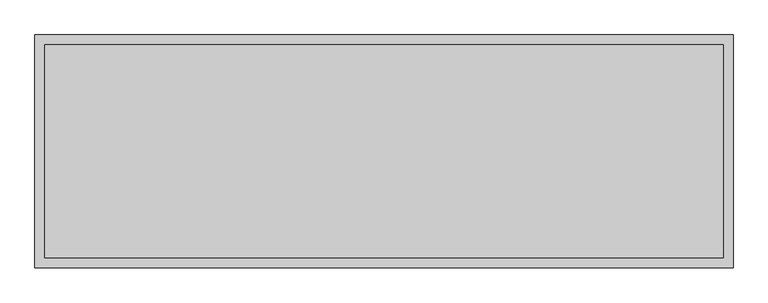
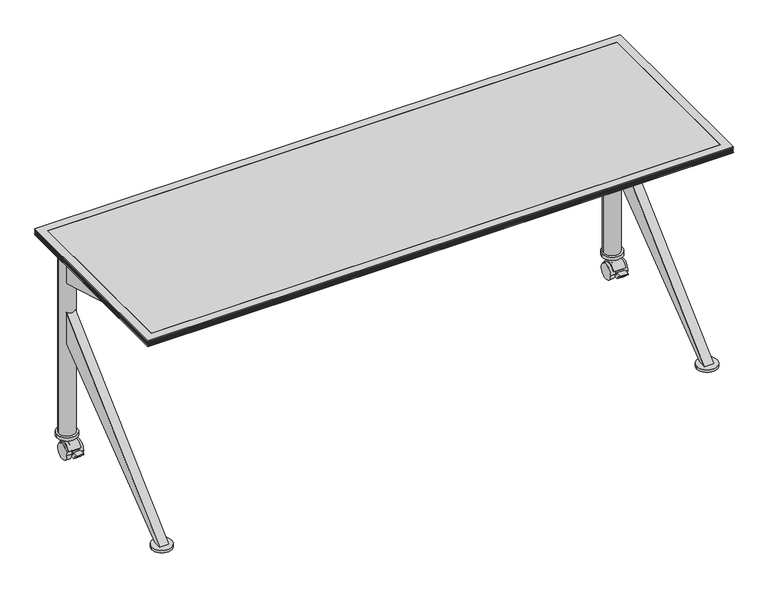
"""IFC4 building model written with IfcOpenShell, lengths in millimetres: furniture geometry, Coalesse_AM_Table_Conference_Ballet_Rectangular_KBase : Non Folding - 72L x 24W."""

from ifc_helpers import new_model, si_unit, point, frame, frame_2d, origin, origin_with_axes, place, context, project, spatial, polyline, circle_curve, trimmed, segment, composite_curve, outline, extrude, faceted_brep, source, transform, mapped, element, save


def furniture_82742941(model_context):
    return source(origin(), model_context, "Body", "SolidModel", [
        extrude(outline(composite_curve([segment(trimmed(circle_curve(frame_2d((-851.8092495, -273.05)), 25.4), [point((-877.2092495, -273.05))], [point((-826.4092495, -273.05))], False, "CARTESIAN"), True, "CONTINUOUS"), segment(trimmed(circle_curve(frame_2d((-851.8092495, -273.05)), 25.4), [point((-826.4092495, -273.05))], [point((-877.2092495, -273.05))], False, "CARTESIAN"), True, "CONTINUOUS")], self_intersect=False)), origin_with_axes(), (0.0, 0.0, 1.0), 4.2936144),
        extrude(outline(composite_curve([segment(trimmed(circle_curve(frame_2d((851.0624629, -273.05)), 25.4), [point((825.6624629, -273.05))], [point((876.4624629, -273.05))], False, "CARTESIAN"), True, "CONTINUOUS"), segment(trimmed(circle_curve(frame_2d((851.0624629, -273.05)), 25.4), [point((876.4624629, -273.05))], [point((825.6624629, -273.05))], False, "CARTESIAN"), True, "CONTINUOUS")], self_intersect=False)), origin_with_axes(), (0.0, 0.0, 1.0), 4.2936144),
        extrude(outline(composite_curve([segment(polyline([(249.3604217, 14.7931869), (246.4491351, 16.4051117)]), True, "CONTINUOUS"), segment(trimmed(circle_curve(frame_2d((223.0336856, 24.9907393)), 24.9398531), [point((246.4491351, 16.4051117))], [point((200.5459564, 35.7749086))], True, "CARTESIAN"), True, "CONTINUOUS"), segment(polyline([(200.5459564, 35.7749086), (197.1203751, 36.8601197)]), True, "CONTINUOUS"), segment(trimmed(circle_curve(frame_2d((222.3646326, 26.7032164)), 27.2109394), [point((197.1203751, 36.8601197))], [point((233.9847122, 51.3082762))], False, "CARTESIAN"), True, "CONTINUOUS"), segment(trimmed(circle_curve(frame_2d((223.9211664, 25.8930561)), 27.3351124), [point((233.9847122, 51.3082762))], [point((249.3604217, 35.8956886))], False, "CARTESIAN"), True, "CONTINUOUS"), segment(trimmed(circle_curve(frame_2d((222.5258895, 25.3444377)), 28.8343721), [point((249.3604217, 35.8956886))], [point((249.3604217, 14.7931869))], False, "CARTESIAN"), True, "CONTINUOUS")], self_intersect=False)), frame((831.0279182, 0.0, 0.0), z_axis=(1.0, 0.0, 0.0), x_axis=(0.0, 1.0, 0.0)), (0.0, 0.0, 1.0), 37.985857),
        extrude(outline(composite_curve([segment(trimmed(circle_curve(frame_2d((223.0336856, 24.9907393)), 24.9398531), [point((198.0938325, 24.9907393))], [point((247.9735388, 24.9907393))], False, "CARTESIAN"), True, "CONTINUOUS"), segment(trimmed(circle_curve(frame_2d((223.0336856, 24.9907393)), 24.9398531), [point((247.9735388, 24.9907393))], [point((198.0938325, 24.9907393))], False, "CARTESIAN"), True, "CONTINUOUS")], self_intersect=False)), frame((821.8801992, 0.0, 0.0), z_axis=(1.0, 0.0, 0.0), x_axis=(0.0, 1.0, 0.0)), (0.0, 0.0, 1.0), 14.732),
        extrude(outline(composite_curve([segment(polyline([(233.9847122, 63.5225277), (249.3604217, 63.5225277), (249.3604217, 35.8956886)]), True, "CONTINUOUS"), segment(trimmed(circle_curve(frame_2d((222.5258895, 25.3444377)), 28.8343721), [point((249.3604217, 35.8956886))], [point((249.3604217, 14.7931869))], False, "CARTESIAN"), True, "CONTINUOUS"), segment(polyline([(249.3604217, 14.7931869), (235.895607, 22.2484025), (232.8197341, 16.6930892)]), True, "CONTINUOUS"), segment(trimmed(circle_curve(frame_2d((223.127305, 25.0010719)), 12.7658043), [point((232.8197341, 16.6930892))], [point((212.8624455, 17.4117096))], False, "CARTESIAN"), True, "CONTINUOUS"), segment(polyline([(212.8624455, 17.4117096), (187.093848, 17.4117096), (178.1223524, 31.7691038), (171.3969156, 31.7691038), (171.3969156, 35.1210973), (190.4469156, 35.1210973), (190.4469156, 25.0010719), (209.7362269, 25.0010719), (211.9998286, 32.1463658), (197.1203751, 36.8601197)]), True, "CONTINUOUS"), segment(trimmed(circle_curve(frame_2d((222.3646326, 26.7032164)), 27.2109394), [point((197.1203751, 36.8601197))], [point((233.9847122, 51.3082762))], False, "CARTESIAN"), True, "CONTINUOUS"), segment(polyline([(233.9847122, 51.3082762), (233.9847122, 63.5225277)]), True, "CONTINUOUS")], self_intersect=False)), frame((836.6121992, 0.0, 0.0), z_axis=(1.0, 0.0, 0.0), x_axis=(0.0, 1.0, 0.0)), (0.0, 0.0, 1.0), 24.5934543),
        extrude(outline(composite_curve([segment(trimmed(circle_curve(frame_2d((223.0336856, 24.9907393)), 24.9398531), [point((198.0938325, 24.9907393))], [point((247.9735388, 24.9907393))], False, "CARTESIAN"), True, "CONTINUOUS"), segment(trimmed(circle_curve(frame_2d((223.0336856, 24.9907393)), 24.9398531), [point((247.9735388, 24.9907393))], [point((198.0938325, 24.9907393))], False, "CARTESIAN"), True, "CONTINUOUS")], self_intersect=False)), frame((861.2056535, 0.0, 0.0), z_axis=(1.0, 0.0, 0.0), x_axis=(0.0, 1.0, 0.0)), (0.0, 0.0, 1.0), 14.732),
        extrude(outline(composite_curve([segment(trimmed(circle_curve(frame_2d((851.7954026, 240.5212308)), 31.75), [point((883.5454026, 240.5212308))], [point((820.0454026, 240.5212308))], False, "CARTESIAN"), True, "CONTINUOUS"), segment(trimmed(circle_curve(frame_2d((851.7954026, 240.5212308)), 31.75), [point((820.0454026, 240.5212308))], [point((883.5454026, 240.5212308))], False, "CARTESIAN"), True, "CONTINUOUS")], self_intersect=False)), frame((0.0, 0.0, 62.0397209), z_axis=(0.0, 0.0, 1.0), x_axis=(1.0, 0.0, 0.0)), (0.0, 0.0, 1.0), 10.7840801),
        extrude(outline(composite_curve([segment(polyline([(249.3604217, 14.7931869), (246.4491351, 16.4051117)]), True, "CONTINUOUS"), segment(trimmed(circle_curve(frame_2d((223.0336856, 24.9907393)), 24.9398531), [point((246.4491351, 16.4051117))], [point((200.5459564, 35.7749086))], True, "CARTESIAN"), True, "CONTINUOUS"), segment(polyline([(200.5459564, 35.7749086), (197.1203751, 36.8601197)]), True, "CONTINUOUS"), segment(trimmed(circle_curve(frame_2d((222.3646326, 26.7032164)), 27.2109394), [point((197.1203751, 36.8601197))], [point((233.9847122, 51.3082762))], False, "CARTESIAN"), True, "CONTINUOUS"), segment(trimmed(circle_curve(frame_2d((223.9211664, 25.8930561)), 27.3351124), [point((233.9847122, 51.3082762))], [point((249.3604217, 35.8956886))], False, "CARTESIAN"), True, "CONTINUOUS"), segment(trimmed(circle_curve(frame_2d((222.5258895, 25.3444377)), 28.8343721), [point((249.3604217, 35.8956886))], [point((249.3604217, 14.7931869))], False, "CARTESIAN"), True, "CONTINUOUS")], self_intersect=False)), frame((-870.4010267, 0.0, 0.0), z_axis=(1.0, 0.0, 0.0), x_axis=(0.0, 1.0, 0.0)), (0.0, 0.0, 1.0), 37.7563315),
        extrude(outline(composite_curve([segment(trimmed(circle_curve(frame_2d((223.0336856, 24.9907393)), 24.9398531), [point((198.0938325, 24.9907393))], [point((247.9735388, 24.9907393))], False, "CARTESIAN"), True, "CONTINUOUS"), segment(trimmed(circle_curve(frame_2d((223.0336856, 24.9907393)), 24.9398531), [point((247.9735388, 24.9907393))], [point((198.0938325, 24.9907393))], False, "CARTESIAN"), True, "CONTINUOUS")], self_intersect=False)), frame((-838.7822707, 0.0, 0.0), z_axis=(1.0, 0.0, 0.0), x_axis=(0.0, 1.0, 0.0)), (0.0, 0.0, 1.0), 14.732),
        extrude(outline(composite_curve([segment(polyline([(233.9847122, 63.5225277), (249.3604217, 63.5225277), (249.3604217, 35.8956886)]), True, "CONTINUOUS"), segment(trimmed(circle_curve(frame_2d((222.5258895, 25.3444377)), 28.8343721), [point((249.3604217, 35.8956886))], [point((249.3604217, 14.7931869))], False, "CARTESIAN"), True, "CONTINUOUS"), segment(polyline([(249.3604217, 14.7931869), (235.895607, 22.2484025), (232.8197341, 16.6930892)]), True, "CONTINUOUS"), segment(trimmed(circle_curve(frame_2d((223.127305, 25.0010719)), 12.7658043), [point((232.8197341, 16.6930892))], [point((212.8624455, 17.4117096))], False, "CARTESIAN"), True, "CONTINUOUS"), segment(polyline([(212.8624455, 17.4117096), (187.093848, 17.4117096), (178.1223524, 31.7691038), (171.3969156, 31.7691038), (171.3969156, 35.1210973), (190.4469156, 35.1210973), (190.4469156, 25.0010719), (209.7362269, 25.0010719), (211.9998286, 32.1463658), (197.1203751, 36.8601197)]), True, "CONTINUOUS"), segment(trimmed(circle_curve(frame_2d((222.3646326, 26.7032164)), 27.2109394), [point((197.1203751, 36.8601197))], [point((233.9847122, 51.3082762))], False, "CARTESIAN"), True, "CONTINUOUS"), segment(polyline([(233.9847122, 51.3082762), (233.9847122, 63.5225277)]), True, "CONTINUOUS")], self_intersect=False)), frame((-861.2056535, 0.0, 0.0), z_axis=(1.0, 0.0, 0.0), x_axis=(0.0, 1.0, 0.0)), (0.0, 0.0, 1.0), 22.4233828),
        extrude(outline(composite_curve([segment(trimmed(circle_curve(frame_2d((223.0336856, 24.9907393)), 24.9398531), [point((198.0938325, 24.9907393))], [point((247.9735388, 24.9907393))], False, "CARTESIAN"), True, "CONTINUOUS"), segment(trimmed(circle_curve(frame_2d((223.0336856, 24.9907393)), 24.9398531), [point((247.9735388, 24.9907393))], [point((198.0938325, 24.9907393))], False, "CARTESIAN"), True, "CONTINUOUS")], self_intersect=False)), frame((-875.9376535, 0.0, 0.0), z_axis=(1.0, 0.0, 0.0), x_axis=(0.0, 1.0, 0.0)), (0.0, 0.0, 1.0), 14.732),
        extrude(outline(composite_curve([segment(trimmed(circle_curve(frame_2d((-851.7954026, 240.5212308)), 31.75), [point((-883.5454026, 240.5212308))], [point((-820.0454026, 240.5212308))], False, "CARTESIAN"), True, "CONTINUOUS"), segment(trimmed(circle_curve(frame_2d((-851.7954026, 240.5212308)), 31.75), [point((-820.0454026, 240.5212308))], [point((-883.5454026, 240.5212308))], False, "CARTESIAN"), True, "CONTINUOUS")], self_intersect=False)), frame((0.0, 0.0, 62.0397209), z_axis=(0.0, 0.0, 1.0), x_axis=(1.0, 0.0, 0.0)), (0.0, 0.0, 1.0), 10.7840801),
        extrude(outline(composite_curve([segment(trimmed(circle_curve(frame_2d((-850.9003633, 241.3)), 25.4), [point((-876.3003633, 241.3))], [point((-825.5003633, 241.3))], False, "CARTESIAN"), True, "CONTINUOUS"), segment(trimmed(circle_curve(frame_2d((-850.9003633, 241.3)), 25.4), [point((-825.5003633, 241.3))], [point((-876.3003633, 241.3))], False, "CARTESIAN"), True, "CONTINUOUS")], self_intersect=False)), frame((0.0, 0.0, 72.823801), z_axis=(0.0, 0.0, 1.0), x_axis=(1.0, 0.0, 0.0)), (0.0, 0.0, 1.0), 625.6762232),
        extrude(outline(composite_curve([segment(trimmed(circle_curve(frame_2d((850.9003633, 241.3)), 25.4), [point((825.5003633, 241.3))], [point((876.3003633, 241.3))], False, "CARTESIAN"), True, "CONTINUOUS"), segment(trimmed(circle_curve(frame_2d((850.9003633, 241.3)), 25.4), [point((876.3003633, 241.3))], [point((825.5003633, 241.3))], False, "CARTESIAN"), True, "CONTINUOUS")], self_intersect=False)), frame((0.0, 0.0, 72.823801), z_axis=(0.0, 0.0, 1.0), x_axis=(1.0, 0.0, 0.0)), (0.0, 0.0, 1.0), 625.6762232),
        extrude(outline(polyline([(220.2656271, 577.7388634), (-193.674901, 698.5000242), (-161.924901, 698.5000242), (220.2656271, 641.3500242), (220.2656271, 577.7388634)])), frame((-865.2007845, 0.0, 0.0), z_axis=(1.0, 0.0, 0.0), x_axis=(0.0, 1.0, 0.0)), (0.0, 0.0, 1.0), 28.5877899),
        extrude(outline(polyline([(220.2656271, 381.0), (-261.9375951, 12.7), (-284.1624013, 12.7), (220.2656271, 482.7111245), (220.2656271, 381.0)])), frame((-865.2007845, 0.0, 0.0), z_axis=(1.0, 0.0, 0.0), x_axis=(0.0, 1.0, 0.0)), (0.0, 0.0, 1.0), 28.5877899),
        extrude(outline(polyline([(220.2656271, 577.7388634), (-193.674901, 698.5000242), (-161.924901, 698.5000242), (220.2656271, 641.3500242), (220.2656271, 577.7388634)])), frame((836.6121992, 0.0, 0.0), z_axis=(1.0, 0.0, 0.0), x_axis=(0.0, 1.0, 0.0)), (0.0, 0.0, 1.0), 28.575),
        extrude(outline(polyline([(220.2656271, 381.0), (-261.9375951, 12.7), (-284.1624013, 12.7), (220.2656271, 482.7111245), (220.2656271, 381.0)])), frame((836.6121992, 0.0, 0.0), z_axis=(1.0, 0.0, 0.0), x_axis=(0.0, 1.0, 0.0)), (0.0, 0.0, 1.0), 28.575),
        extrude(outline(composite_curve([segment(trimmed(circle_curve(frame_2d((-851.8092495, -273.05)), 31.75), [point((-883.5592495, -273.05))], [point((-820.0592495, -273.05))], False, "CARTESIAN"), True, "CONTINUOUS"), segment(trimmed(circle_curve(frame_2d((-851.8092495, -273.05)), 31.75), [point((-820.0592495, -273.05))], [point((-883.5592495, -273.05))], False, "CARTESIAN"), True, "CONTINUOUS")], self_intersect=False)), frame((0.0, 0.0, 4.2936144), z_axis=(0.0, 0.0, 1.0), x_axis=(1.0, 0.0, 0.0)), (0.0, 0.0, 1.0), 8.4063856),
        extrude(outline(composite_curve([segment(trimmed(circle_curve(frame_2d((851.0624629, -273.05)), 31.75), [point((819.3124629, -273.05))], [point((882.8124629, -273.05))], False, "CARTESIAN"), True, "CONTINUOUS"), segment(trimmed(circle_curve(frame_2d((851.0624629, -273.05)), 31.75), [point((882.8124629, -273.05))], [point((819.3124629, -273.05))], False, "CARTESIAN"), True, "CONTINUOUS")], self_intersect=False)), frame((0.0, 0.0, 4.2936144), z_axis=(0.0, 0.0, 1.0), x_axis=(1.0, 0.0, 0.0)), (0.0, 0.0, 1.0), 8.4063856),
        faceted_brep([(-914.4003633, 304.8, 704.85), (-889.0003876, 279.4000242, 698.5000242), (-889.0003876, -279.3999516, 698.5000242), (-914.4003633, -304.7999273, 704.85), (-914.4003633, 304.8, 708.0250242), (-914.4003633, -304.7999273, 708.0250242), (-911.2253755, 301.6250121, 709.6125), (-911.2253755, -301.6249394, 709.6125), (-914.4003633, 304.8, 711.1999758), (-914.4003633, -304.7999273, 711.1999758), (-911.2253755, 301.6250121, 712.7875242), (-911.2253755, -301.6249394, 712.7875242), (-914.4003633, 304.8, 714.375), (-914.4003633, -304.7999273, 714.375), (-911.2253755, 301.6250121, 715.9624758), (-911.2253755, -301.6249394, 715.9624758), (-914.4003633, 304.8, 717.5500242), (-914.4003633, -304.7999273, 717.5500242), (-911.2253755, 301.6250121, 719.1375), (-911.2253755, -301.6249394, 719.1375), (-914.4003633, 304.8, 720.7249758), (-914.4003633, -304.7999273, 720.7249758), (-914.4003633, 304.8, 723.9), (-914.4003633, -304.7999273, 723.9), (-889.0003876, 279.4000242, 723.9), (-889.0003876, -279.3999516, 723.9), (888.9998062, -279.3999516, 698.5000242), (914.399782, -304.7999273, 704.85), (914.399782, -304.7999273, 708.0250242), (911.2247941, -301.6249394, 709.6125), (914.399782, -304.7999273, 711.1999758), (911.2247941, -301.6249394, 712.7875242), (914.399782, -304.7999273, 714.375), (911.2247941, -301.6249394, 715.9624758), (914.399782, -304.7999273, 717.5500242), (911.2247941, -301.6249394, 719.1375), (914.399782, -304.7999273, 720.7249758), (914.399782, -304.7999273, 723.9), (888.9998062, -279.3999516, 723.9), (888.9998062, 279.4000242, 698.5000242), (914.399782, 304.8, 704.85), (914.399782, 304.8, 708.0250242), (911.2247941, 301.6250121, 709.6125), (914.399782, 304.8, 711.1999758), (911.2247941, 301.6250121, 712.7875242), (914.399782, 304.8, 714.375), (911.2247941, 301.6250121, 715.9624758), (914.399782, 304.8, 717.5500242), (911.2247941, 301.6250121, 719.1375), (914.399782, 304.8, 720.7249758), (914.399782, 304.8, 723.9), (888.9998062, 279.4000242, 723.9)], [[[0, 1, 2, 3]], [[4, 0, 3, 5]], [[6, 4, 5, 7]], [[8, 6, 7, 9]], [[10, 8, 9, 11]], [[12, 10, 11, 13]], [[14, 12, 13, 15]], [[16, 14, 15, 17]], [[18, 16, 17, 19]], [[20, 18, 19, 21]], [[22, 20, 21, 23]], [[1, 24, 25, 2]], [[3, 2, 26, 27]], [[5, 3, 27, 28]], [[7, 5, 28, 29]], [[9, 7, 29, 30]], [[11, 9, 30, 31]], [[13, 11, 31, 32]], [[15, 13, 32, 33]], [[17, 15, 33, 34]], [[19, 17, 34, 35]], [[21, 19, 35, 36]], [[23, 21, 36, 37]], [[2, 25, 38, 26]], [[27, 26, 39, 40]], [[28, 27, 40, 41]], [[29, 28, 41, 42]], [[30, 29, 42, 43]], [[31, 30, 43, 44]], [[32, 31, 44, 45]], [[33, 32, 45, 46]], [[34, 33, 46, 47]], [[35, 34, 47, 48]], [[36, 35, 48, 49]], [[37, 36, 49, 50]], [[26, 38, 51, 39]], [[40, 39, 1, 0]], [[41, 40, 0, 4]], [[42, 41, 4, 6]], [[43, 42, 6, 8]], [[44, 43, 8, 10]], [[45, 44, 10, 12]], [[46, 45, 12, 14]], [[47, 46, 14, 16]], [[48, 47, 16, 18]], [[49, 48, 18, 20]], [[50, 49, 20, 22]], [[23, 37, 50, 22], [24, 51, 38, 25]], [[39, 51, 24, 1]]]),
        extrude(outline(polyline([(888.9998062, 279.4000242), (888.9998062, -279.3999516), (-889.0003876, -279.3999516), (-889.0003876, 279.4000242), (888.9998062, 279.4000242)])), frame((0.0, 0.0, 704.85), z_axis=(0.0, 0.0, 1.0), x_axis=(1.0, 0.0, 0.0)), (0.0, 0.0, 1.0), 19.05),
    ])


if __name__ == "__main__":
    model = new_model("IFC4")
    model_context = context("Model", 3, world=origin())
    ifc_project = project(units=[si_unit("LENGTHUNIT", "METRE", prefix="MILLI")], contexts=[model_context])
    site = spatial("IfcSite", under=ifc_project)
    building = spatial("IfcBuilding", under=site)
    placement = place(None, origin())
    furniture_shape = furniture_82742941(model_context)
    element("IfcFurniture", 1, ObjectType="Coalesse_AM_Table_Conference_Ballet_Rectangular_KBase : Non Folding - 72L x 24W", at=placement, inside=building, context=model_context, shape_type="MappedRepresentation", body=[
        mapped(furniture_shape, transform((0.0, 0.0, 0.0), x_axis=(1.0, 0.0, 0.0), y_axis=(0.0, 1.0, 0.0), z_axis=(0.0, 0.0, 1.0))),
    ])
    save(model, "model.ifc")
